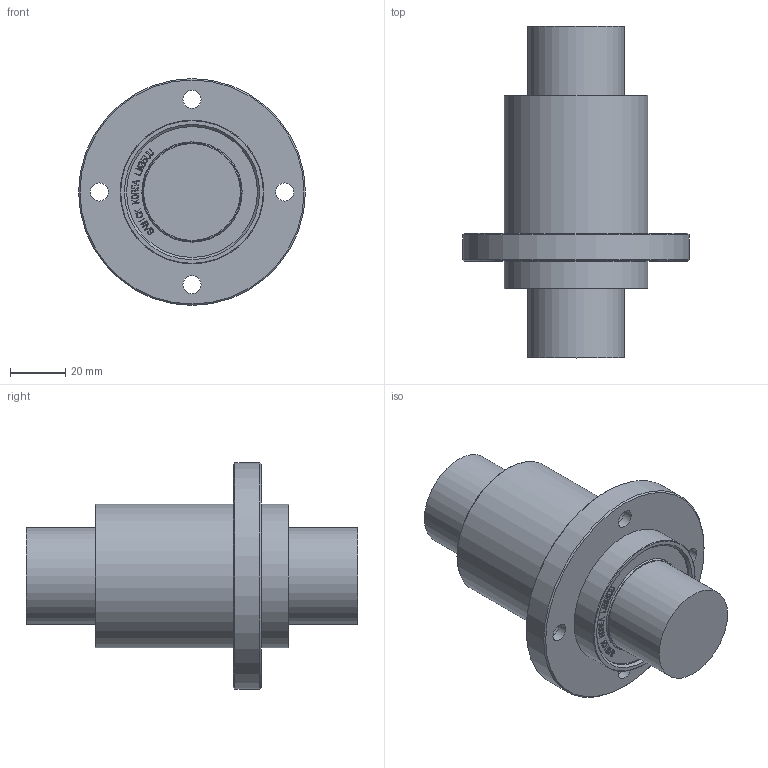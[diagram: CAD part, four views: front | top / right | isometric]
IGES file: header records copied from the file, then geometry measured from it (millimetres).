
Global section: file name: No Iges File Name specified; native system: Autodesk Inventor 2012; preprocessor: AutoDesk Inventor Iges Exporter R2012; author: user2; date: 20130206.161601; units: millimetre
Bounding box: 82 x 120 x 82 mm (x, y, z)
Volume: 223070.5 mm3; surface area: 29751.1 mm2
Topology: 1 solids, 1 shells, 887 faces, 2489 edges, 1658 vertices
Faces by surface type: bspline 636, plane 228, revolution 12, cylinder 5, cone 4, torus 2
Full cylindrical faces by diameter (mm): 35 x2, 52 x2, 82 x1
